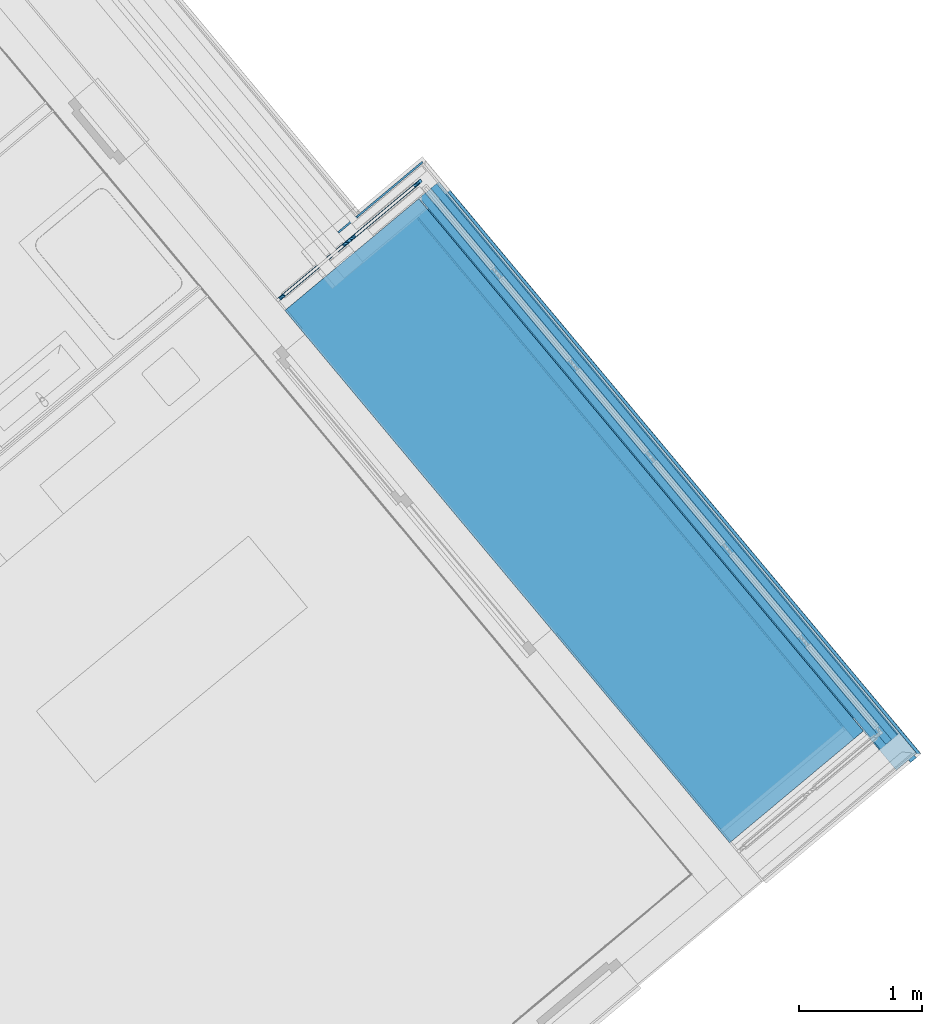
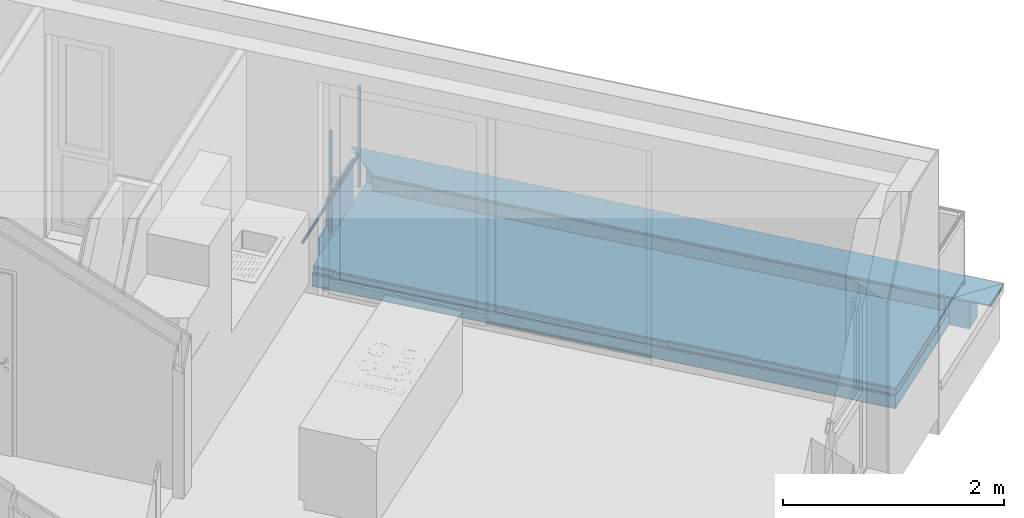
# One storey, part 40 of 61: 15 building element parts, 4 elements without a shape of their own.
"""IFC4 building model written with IfcOpenShell, lengths in metres."""

from ifc_helpers import new_model, entity, si_unit, converted_unit, derived_unit, direction, frame, origin_with_axes, place, context, subcontext, project, spatial, polygons, material, type_object, element, aggregate, save


model = new_model("IFC4")

# Units and contexts
model_context = context("Model", 3, precision=1e-05, world=origin_with_axes(), true_north=direction((0.0, 1.0)))
body_context = subcontext(model_context, "Body", "Model", "MODEL_VIEW")
ifc_project = project(units=[si_unit("LENGTHUNIT", "METRE"), si_unit("AREAUNIT", "SQUARE_METRE"), si_unit("VOLUMEUNIT", "CUBIC_METRE"), converted_unit("PLANEANGLEUNIT", "DEGREE", entity("IfcPlaneAngleMeasure", 0.0174532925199), si_unit("PLANEANGLEUNIT", "RADIAN"), dimensions=[0, 0, 0, 0, 0, 0, 0]), converted_unit("TIMEUNIT", "Year", entity("IfcTimeMeasure", 31556926.0), si_unit("TIMEUNIT", "SECOND"), dimensions=[0, 0, 1, 0, 0, 0, 0]), si_unit("MASSUNIT", "GRAM", prefix="KILO"), si_unit("THERMODYNAMICTEMPERATUREUNIT", "DEGREE_CELSIUS"), si_unit("LUMINOUSINTENSITYUNIT", "LUMEN"), si_unit("ENERGYUNIT", "JOULE", prefix="MEGA"), derived_unit("THERMALCONDUCTANCEUNIT", [(si_unit("POWERUNIT", "WATT"), 1), (si_unit("LENGTHUNIT", "METRE"), -1), (si_unit("THERMODYNAMICTEMPERATUREUNIT", "KELVIN"), -1)]), derived_unit("SPECIFICHEATCAPACITYUNIT", [(si_unit("ENERGYUNIT", "JOULE"), 1), (si_unit("MASSUNIT", "GRAM", prefix="KILO"), -1), (si_unit("THERMODYNAMICTEMPERATUREUNIT", "KELVIN"), -1)]), derived_unit("MASSDENSITYUNIT", [(si_unit("MASSUNIT", "GRAM", prefix="KILO"), 1), (si_unit("VOLUMEUNIT", "CUBIC_METRE"), -1)])], contexts=[model_context])

# Site, building, storey
site_placement = place(None, frame((-0.00153261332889, -0.00661245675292, 0.0), z_axis=(0.0, 0.0, 1.0), x_axis=(1.0, 0.0, 0.0)))
site = spatial("IfcSite", under=ifc_project, at=site_placement, Name="Gelände", CompositionType="ELEMENT")
building_placement = place(site_placement, origin_with_axes())
building = spatial("IfcBuilding", under=site, at=building_placement, Name="Gebäude", CompositionType="ELEMENT")
storey_placement = place(building_placement, frame((0.0, 0.0, 5.7), z_axis=(0.0, 0.0, 1.0), x_axis=(1.0, 0.0, 0.0)))
storey = spatial("IfcBuildingStorey", under=building, at=storey_placement, Name="DG1", CompositionType="ELEMENT", Elevation=5.7)

# Wall, building element part
wall_type = type_object("IfcWallType", Name="Bauteil - Attika Balkon 356 x 610", PredefinedType="NOTDEFINED")
wall_1_placement = place(storey_placement, frame((10.0769189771, 25.3809042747, -0.2), z_axis=(0.0, 0.0, 1.0), x_axis=(0.767365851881, 0.641209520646, 0.0)))
wall_1 = element("IfcWall", 1, at=wall_1_placement, inside=storey, type_object=wall_type, Name="Wand-003", PredefinedType="NOTDEFINED")
ifc_material_1 = material(Name="Zementputz")
building_element_part_1_placement = place(wall_1_placement, origin_with_axes())
building_element_part_1 = element("IfcBuildingElementPart", 2, at=building_element_part_1_placement, material=ifc_material_1, Name="Zementputz", PredefinedType="NOTDEFINED", context=body_context, shape_type="Tessellation", body=[
    polygons([(0.19999996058, 0.214999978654, 0.499999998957), (0.19999996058, 0.199999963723, 0.499999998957), (0.89192992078, 0.199999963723, 0.499999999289), (0.89192998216, 0.214999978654, 0.499999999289), (0.19999996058, 0.199999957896, 0.498915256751), (0.19999996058, 0.214999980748, 0.498915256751), (0.19999996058, 0.199999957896, 0.498822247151), (0.19999996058, 0.199999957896, 0.496604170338), (0.19999996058, 0.199999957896, 0.49100648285), (0.19999996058, 0.199999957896, 0.488695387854), (0.19999996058, 0.199999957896, 0.335), (0.19999996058, 0.199999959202, 0.2), (0.89192992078, 0.199999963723, 0.200000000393), (0.891929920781, 0.199999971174, 0.0), (0.89192998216, 0.214999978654, 0.0), (0.0, 0.214999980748, 0.0), (2.39911202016e-10, 0.214999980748, 0.2), (0.19999996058, 0.214999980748, 0.2), (0.19999996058, 0.214999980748, 0.335), (0.19999996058, 0.214999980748, 0.488695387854), (0.19999996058, 0.214999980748, 0.49100648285), (0.19999996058, 0.214999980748, 0.496604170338), (0.19999996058, 0.214999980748, 0.498822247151), (2.39907649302e-10, 0.199999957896, 0.2), (0.0, 0.199999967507, 0.0)], [[[1, 2, 3, 4]], [[5, 2, 1, 6]], [[2, 5, 7, 8, 9, 10, 11, 12, 13, 3]], [[4, 3, 13, 14, 15]], [[6, 1, 4, 15, 16, 17, 18, 19, 20, 21, 22, 23]], [[5, 6, 23, 7]], [[7, 23, 22, 8]], [[8, 22, 21, 9]], [[9, 21, 20, 10]], [[10, 20, 19, 11]], [[11, 19, 18, 12]], [[12, 24, 25, 14, 13]], [[14, 25, 16, 15]], [[24, 17, 16, 25]], [[24, 12, 18, 17]]], closed=True),
])
aggregate(wall_1, [building_element_part_1])

# Wall, building element parts
wall_2_placement = place(storey_placement, frame((10.5963712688, 25.814957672, -0.2), z_axis=(0.0, 0.0, 1.0), x_axis=(0.641206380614, -0.767368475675, 0.0)))
wall_2 = element("IfcWall", 3, at=wall_2_placement, inside=storey, type_object=wall_type, Name="Wand-004", PredefinedType="NOTDEFINED")
ifc_material_2 = material(Name="Vollholz")
building_element_part_2_placement = place(wall_2_placement, origin_with_axes())
building_element_part_2 = element("IfcBuildingElementPart", 4, at=building_element_part_2_placement, material=ifc_material_2, Name="Vollholz", PredefinedType="NOTDEFINED", context=body_context, shape_type="Tessellation", body=[
    polygons([(6.01965327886, 0.189984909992, 0.586106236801), (6.01966449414, 0.189996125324, 0.584015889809), (6.01967573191, 0.190007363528, 0.581921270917), (6.06981943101, 0.190007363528, 0.581921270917), (6.07116862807, 0.190007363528, 0.581921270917), (6.07116862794, 0.190039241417, 0.575979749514), (6.06981904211, 0.190039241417, 0.575979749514), (6.01970760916, 0.190039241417, 0.575979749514), (6.01970977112, 0.190041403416, 0.575576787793), (6.01971887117, 0.190050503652, 0.573880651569), (6.01975070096, 0.190082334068, 0.567947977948), (6.01979334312, 0.190124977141, 0.560000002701), (-0.130125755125, 0.190124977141, 0.560000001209), (-0.130125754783, 0.190041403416, 0.575576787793), (-0.130125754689, 0.190018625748, 0.57982217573), (-0.130125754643, 0.190007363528, 0.581921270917), (-0.130125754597, 0.189996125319, 0.584015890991), (-0.18998568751, 0.189984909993, 0.586106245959), (6.01966473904, 0.130124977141, 0.584015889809), (6.01967597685, 0.130124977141, 0.581921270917), (6.06981967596, 0.130124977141, 0.581921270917), (6.07116887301, 0.130124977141, 0.581921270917), (6.07116887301, 0.130124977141, 0.575979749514), (6.06981928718, 0.130124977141, 0.575979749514), (6.01970785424, 0.130124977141, 0.575979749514), (6.0197100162, 0.130124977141, 0.575576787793), (6.01971911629, 0.130124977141, 0.573880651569), (6.01975094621, 0.130124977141, 0.567947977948), (6.01979358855, 0.130124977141, 0.560000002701), (-0.130125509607, 0.130124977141, 0.560000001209), (-0.130125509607, 0.130124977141, 0.575576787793), (-0.130125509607, 0.130124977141, 0.57982217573), (-0.130125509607, 0.130124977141, 0.581921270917), (-0.130125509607, 0.130124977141, 0.584015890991)], [[[1, 2, 3, 4, 5, 6, 7, 8, 9, 10, 11, 12, 13, 14, 15, 16, 17, 18]], [[19, 2, 1]], [[2, 19, 20, 3]], [[20, 21, 4, 3]], [[5, 4, 21, 22]], [[23, 6, 5, 22]], [[23, 24, 7, 6]], [[25, 8, 7, 24]], [[26, 9, 8, 25]], [[10, 9, 26, 27]], [[28, 11, 10, 27]], [[11, 28, 29, 12]], [[30, 13, 12, 29]], [[14, 13, 30, 31]], [[14, 31, 32, 15]], [[16, 15, 32, 33]], [[16, 33, 34, 17]], [[17, 34, 18]], [[19, 1, 18, 34]], [[25, 24, 23, 22, 21, 20, 19, 34, 33, 32, 31, 30, 29, 28, 27, 26]]], closed=True),
])
ifc_material_3 = material(Name="Brettschichtholz")
building_element_part_3_placement = place(wall_2_placement, origin_with_axes())
building_element_part_3 = element("IfcBuildingElementPart", 5, at=building_element_part_3_placement, material=ifc_material_3, Name="Brettschichtholz", PredefinedType="NOTDEFINED", context=body_context, shape_type="Tessellation", body=[
    polygons([(6.04466834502, 0.190124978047, 0.560000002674), (6.04466824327, 0.214999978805, 0.560000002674), (-8.79832345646e-07, 0.214999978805, 0.560000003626), (-7.78044960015e-07, 0.190124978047, 0.560000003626), (6.04466824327, 0.214999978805, 0.519273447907), (6.04466859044, 0.130124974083, 0.560000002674), (6.0446688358, 0.0701429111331, 0.560000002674), (6.04466908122, 0.010142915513, 0.560000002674), (6.04466912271, 0.0, 0.560000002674), (6.04466912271, 0.0, 0.519273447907), (6.04466824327, 0.214999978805, 0.519224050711), (6.04466824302, 0.214999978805, 0.511410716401), (6.04466824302, 0.214999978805, 0.51136132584), (6.04466824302, 0.214999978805, 0.509099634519), (6.04466824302, 0.214999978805, 0.509050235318), (6.04466824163, 0.214999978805, 0.50000001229), (-8.79832347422e-07, 0.214999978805, 0.499999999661), (-8.79832347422e-07, 0.214999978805, 0.506731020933), (-8.79832347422e-07, 0.214999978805, 0.509099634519), (-8.79832347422e-07, 0.214999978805, 0.511410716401), (-8.79832347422e-07, 0.214999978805, 0.519273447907), (0.0, 0.0, 0.519273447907), (0.0, 0.0, 0.560000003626), (-4.15664587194e-08, 0.010142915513, 0.560000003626), (-2.87083741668e-07, 0.0701429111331, 0.560000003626), (-5.32527650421e-07, 0.130124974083, 0.560000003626), (0.0, 0.0, 0.511410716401), (0.0, 0.0, 0.509099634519), (0.0, 0.0, 0.506731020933), (0.0, 0.0, 0.499999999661), (6.04466912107, 0.0, 0.50000001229), (6.04466912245, 0.0, 0.509050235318), (6.04466912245, 0.0, 0.509099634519), (6.04466912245, 0.0, 0.51136132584), (6.04466912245, 0.0, 0.511410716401), (6.04466912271, 0.0, 0.519224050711)], [[[1, 2, 3, 4]], [[5, 2, 1, 6, 7, 8, 9, 10]], [[2, 5, 11, 12, 13, 14, 15, 16, 17, 18, 19, 20, 21, 3]], [[4, 3, 21, 22, 23, 24, 25, 26]], [[6, 1, 4, 26]], [[7, 6, 26, 25]], [[8, 7, 25, 24]], [[9, 8, 24, 23]], [[10, 9, 23, 22, 27, 28, 29, 30, 31, 32, 33, 34, 35, 36]], [[5, 10, 36, 11]], [[11, 36, 35, 12]], [[12, 35, 34, 13]], [[13, 34, 33, 14]], [[14, 33, 32, 15]], [[15, 32, 31, 16]], [[30, 17, 16, 31]], [[29, 18, 17, 30]], [[28, 19, 18, 29]], [[27, 20, 19, 28]], [[22, 21, 20, 27]]], closed=True),
])
ifc_material_4 = material(Name="Stahlbeton")
building_element_part_4_placement = place(wall_2_placement, origin_with_axes())
building_element_part_4 = element("IfcBuildingElementPart", 6, at=building_element_part_4_placement, material=ifc_material_4, Name="Stahlbeton", PredefinedType="NOTDEFINED", context=body_context, shape_type="Tessellation", body=[
    polygons([(5.82966915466, 1.0529745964e-09, 0.500000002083), (5.82966833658, 0.19999996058, 0.500000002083), (-8.19443810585e-07, 0.19999996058, 0.500000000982), (-1.0529745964e-09, 1.0529745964e-09, 0.500000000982), (5.82966833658, 0.19999996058, 0.498915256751), (5.82966915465, 1.0529745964e-09, 0.498915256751), (5.82966833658, 0.19999996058, 0.498822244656), (5.82966833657, 0.19999996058, 0.496604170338), (5.82966833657, 0.19999996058, 0.491006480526), (5.82966833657, 0.19999996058, 0.488695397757), (5.82966833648, 0.19999996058, 0.335), (5.82966833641, 0.19999996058, 0.200000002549), (-8.19443808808e-07, 0.19999996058, 0.2), (-8.19443812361e-07, 0.19999996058, 0.334999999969), (-8.19443812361e-07, 0.19999996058, 0.496604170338), (-8.19443812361e-07, 0.19999996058, 0.498915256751), (-1.0529745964e-09, 1.0529745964e-09, 0.498915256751), (-1.0529745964e-09, 1.0529745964e-09, 0.496604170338), (-1.0529745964e-09, 1.0529745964e-09, 0.334999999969), (5.82966915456, 1.0529745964e-09, 0.335), (5.82966915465, 1.0529745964e-09, 0.488695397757), (5.82966915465, 1.0529745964e-09, 0.491006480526), (5.82966915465, 1.0529745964e-09, 0.496604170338), (5.82966915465, 1.0529745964e-09, 0.498822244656), (5.82966915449, 1.0529745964e-09, 0.200000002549), (-1.0529745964e-09, 1.0529745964e-09, 0.2)], [[[1, 2, 3, 4]], [[5, 2, 1, 6]], [[2, 5, 7, 8, 9, 10, 11, 12, 13, 14, 15, 16, 3]], [[4, 3, 16, 17]], [[6, 1, 4, 17, 18, 19, 20, 21, 22, 23, 24]], [[5, 6, 24, 7]], [[7, 24, 23, 8]], [[8, 23, 22, 9]], [[9, 22, 21, 10]], [[10, 21, 20, 11]], [[11, 20, 25, 12]], [[12, 25, 26, 13]], [[19, 14, 13, 26]], [[18, 15, 14, 19]], [[17, 16, 15, 18]], [[25, 20, 19, 26]]], closed=True),
])
building_element_part_5_placement = place(wall_2_placement, origin_with_axes())
building_element_part_5 = element("IfcBuildingElementPart", 7, at=building_element_part_5_placement, material=ifc_material_2, Name="Vollholz", PredefinedType="NOTDEFINED", context=body_context, shape_type="Tessellation", body=[
    polygons([(6.01968773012, 0.0100326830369, 0.57982217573), (6.0196762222, 0.0701429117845, 0.581921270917), (-0.0701431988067, 0.0701429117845, 0.581921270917), (-0.0100327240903, 0.010032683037, 0.579822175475), (6.01968748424, 0.0701429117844, 0.57982217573), (6.01970809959, 0.0701429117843, 0.575979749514), (5.95979383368, 0.0701429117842, 0.575979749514), (5.72966885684, 0.0701429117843, 0.575979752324), (5.72966885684, 0.0701429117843, 0.575576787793), (5.72966885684, 0.0701429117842, 0.573880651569), (5.72966885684, 0.0701429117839, 0.567947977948), (5.72966885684, 0.0701429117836, 0.560000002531), (-0.0101431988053, 0.0701429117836, 0.560000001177), (-0.0100565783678, 0.0701429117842, 0.575576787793), (-0.0100329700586, 0.0701429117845, 0.579822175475), (6.01970834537, 0.0100540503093, 0.575979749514), (-0.0100563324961, 0.0100562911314, 0.575576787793), (-0.010142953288, 0.0101429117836, 0.560000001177), (5.72966910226, 0.0101429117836, 0.560000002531), (5.72966910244, 0.0100987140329, 0.567947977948), (5.72966910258, 0.0100657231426, 0.573880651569), (5.72966910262, 0.0100562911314, 0.575576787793), (5.72966910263, 0.0100540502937, 0.575979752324), (5.95979407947, 0.0100540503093, 0.575979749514)], [[[1, 2, 3, 4]], [[5, 2, 1]], [[2, 5, 6, 7, 8, 9, 10, 11, 12, 13, 14, 15, 3]], [[3, 15, 4]], [[16, 1, 4, 17, 18, 19, 20, 21, 22, 23, 24]], [[5, 1, 16, 6]], [[6, 16, 24, 7]], [[8, 7, 24, 23]], [[9, 8, 23, 22]], [[9, 22, 21, 10]], [[10, 21, 20, 11]], [[11, 20, 19, 12]], [[12, 19, 18, 13]], [[17, 14, 13, 18]], [[4, 15, 14, 17]]], closed=True),
])
ifc_material_5 = material(Name="EPS 1")
building_element_part_6_placement = place(wall_2_placement, origin_with_axes())
building_element_part_6 = element("IfcBuildingElementPart", 8, at=building_element_part_6_placement, material=ifc_material_5, Name="EPS 1", PredefinedType="NOTDEFINED", context=body_context, shape_type="Tessellation", body=[
    polygons([(5.62966955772, -0.0999999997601, 0.560000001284), (5.62966914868, 2.39911202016e-10, 0.560000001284), (0.0999999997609, 2.39907649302e-10, 0.560000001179), (0.100000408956, -0.0999999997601, 0.560000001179), (5.62966915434, 2.39914754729e-10, 0.519273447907), (5.62966956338, -0.0999999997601, 0.519273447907), (5.62966915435, 2.39914754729e-10, 0.519224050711), (5.62966915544, 2.39911202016e-10, 0.511410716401), (5.62966915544, 2.39914754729e-10, 0.51136132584), (5.62966915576, 2.39907649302e-10, 0.509099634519), (5.62966915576, 2.39911202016e-10, 0.509050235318), (5.62966915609, 2.39907649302e-10, 0.506731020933), (5.62966915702, 2.39928965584e-10, 0.500000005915), (5.62966915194, 2.39911202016e-10, 0.498915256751), (5.62966915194, 2.39911202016e-10, 0.498822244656), (5.62966915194, 2.39911202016e-10, 0.496604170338), (5.62966915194, 2.39911202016e-10, 0.491006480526), (5.62966915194, 2.39911202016e-10, 0.488695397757), (5.62966915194, 2.39911202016e-10, 0.334999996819), (0.0999999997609, 2.39911202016e-10, 0.334999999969), (0.0999999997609, 2.39911202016e-10, 0.496604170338), (0.0999999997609, 2.39911202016e-10, 0.498915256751), (0.0999999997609, 2.39911202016e-10, 0.499999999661), (0.0999999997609, 2.39911202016e-10, 0.506731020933), (0.0999999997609, 2.39911202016e-10, 0.509099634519), (0.0999999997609, 2.39911202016e-10, 0.511410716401), (0.0999999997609, 2.39911202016e-10, 0.519273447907), (0.100000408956, -0.0999999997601, 0.519273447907), (0.100000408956, -0.0999999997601, 0.511410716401), (0.100000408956, -0.0999999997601, 0.509099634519), (0.100000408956, -0.0999999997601, 0.506731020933), (0.100000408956, -0.0999999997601, 0.499999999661), (0.100000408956, -0.0999999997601, 0.498915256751), (0.100000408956, -0.0999999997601, 0.496604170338), (0.100000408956, -0.0999999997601, 0.334999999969), (5.62966956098, -0.0999999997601, 0.334999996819), (5.62966956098, -0.0999999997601, 0.488695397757), (5.62966956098, -0.0999999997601, 0.491006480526), (5.62966956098, -0.0999999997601, 0.496604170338), (5.62966956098, -0.0999999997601, 0.498822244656), (5.62966956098, -0.0999999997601, 0.498915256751), (5.62966956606, -0.0999999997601, 0.500000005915), (5.62966956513, -0.0999999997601, 0.506731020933), (5.6296695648, -0.0999999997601, 0.509050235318), (5.6296695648, -0.0999999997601, 0.509099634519), (5.62966956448, -0.0999999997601, 0.51136132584), (5.62966956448, -0.0999999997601, 0.511410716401), (5.62966956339, -0.0999999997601, 0.519224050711)], [[[1, 2, 3, 4]], [[5, 2, 1, 6]], [[2, 5, 7, 8, 9, 10, 11, 12, 13, 14, 15, 16, 17, 18, 19, 20, 21, 22, 23, 24, 25, 26, 27, 3]], [[4, 3, 27, 28]], [[6, 1, 4, 28, 29, 30, 31, 32, 33, 34, 35, 36, 37, 38, 39, 40, 41, 42, 43, 44, 45, 46, 47, 48]], [[5, 6, 48, 7]], [[7, 48, 47, 8]], [[8, 47, 46, 9]], [[9, 46, 45, 10]], [[10, 45, 44, 11]], [[11, 44, 43, 12]], [[12, 43, 42, 13]], [[13, 42, 41, 14]], [[14, 41, 40, 15]], [[15, 40, 39, 16]], [[16, 39, 38, 17]], [[17, 38, 37, 18]], [[18, 37, 36, 19]], [[19, 36, 35, 20]], [[34, 21, 20, 35]], [[33, 22, 21, 34]], [[32, 23, 22, 33]], [[31, 24, 23, 32]], [[30, 25, 24, 31]], [[29, 26, 25, 30]], [[28, 27, 26, 29]]], closed=True),
])
ifc_material_6 = material(Name="Holzwerkstoff")
building_element_part_7_placement = place(wall_2_placement, origin_with_axes())
building_element_part_7 = element("IfcBuildingElementPart", 9, at=building_element_part_7_placement, material=ifc_material_6, Name="Holzwerkstoff", PredefinedType="NOTDEFINED", context=body_context, shape_type="Tessellation", body=[
    polygons([(0.111834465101, -0.11183400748, 0.584015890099), (0.111907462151, -0.111907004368, 0.586106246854), (0.111906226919, 0.189984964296, 0.586106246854), (0.111833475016, 0.130124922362, 0.584015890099), (0.111761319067, -0.111760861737, 0.581921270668), (0.111688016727, -0.111687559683, 0.579822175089), (0.111539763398, -0.111539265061, 0.575576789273), (5.71813030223, -0.111539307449, 0.575576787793), (5.72966960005, -0.111553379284, 0.575979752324), (5.83970228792, -0.111687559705, 0.57982217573), (5.89981250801, -0.111760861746, 0.581921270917), (5.95979458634, -0.111834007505, 0.584015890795), (6.0196545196, -0.111907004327, 0.586106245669), (6.06966959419, -0.111967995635, 0.587852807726), (6.06966663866, -0.111970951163, 0.587937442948), (6.06939045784, -0.112247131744, 0.595846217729), (0.112247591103, -0.112247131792, 0.5958462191), (0.112246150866, 0.239720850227, 0.5958462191), (0.111967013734, 0.23999998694, 0.587852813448), (6.0196532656, 0.189984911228, 0.586106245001), (5.95979359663, 0.130124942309, 0.584015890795), (0.111760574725, 0.0701429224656, 0.581921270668), (0.111687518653, 0.01003274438, 0.579822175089), (5.83970179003, 0.010032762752, 0.57982217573), (5.72966955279, -0.0999999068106, 0.575979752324), (5.89981174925, 0.0701429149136, 0.581921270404), (6.0696681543, 0.23999998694, 0.587852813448), (6.06966519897, 0.239997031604, 0.587937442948), (6.06938901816, 0.239720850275, 0.595846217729), (-0.239277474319, 0.239276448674, 0.608570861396), (6.06894466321, 0.23927649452, 0.608570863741)], [[[1, 2, 3, 4]], [[5, 6, 7, 8, 9, 10, 11, 12, 13, 14, 15, 16, 17, 2, 1]], [[2, 17, 18, 19, 3]], [[4, 3, 20, 21]], [[5, 1, 4, 22]], [[6, 5, 22, 23]], [[7, 6, 23]], [[7, 23, 24, 25, 8]], [[9, 8, 25]], [[10, 9, 25, 24]], [[11, 10, 24, 26]], [[12, 11, 26, 21]], [[13, 12, 21, 20]], [[14, 13, 20, 27]], [[14, 27, 28, 15]], [[16, 15, 28, 29]], [[30, 17, 16, 31]], [[18, 17, 30]], [[19, 18, 30, 31, 29, 28, 27]], [[3, 19, 27, 20]], [[22, 4, 21, 26]], [[23, 22, 26, 24]], [[16, 29, 31]]], closed=True),
])
aggregate(wall_2, [building_element_part_2, building_element_part_3, building_element_part_4, building_element_part_5, building_element_part_6, building_element_part_7])

# Covering, building element parts
covering_type = type_object("IfcCoveringType", Name="Balkon vor Terrasse 220", PredefinedType="NOTDEFINED")
covering_placement = place(storey_placement, frame((13.1202359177, 20.5875383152, 0.0), z_axis=(0.0, 0.0, 1.0), x_axis=(1.0, 0.0, 0.0)))
covering = element("IfcCovering", 10, at=covering_placement, inside=storey, type_object=covering_type, Name="Decke-005", PredefinedType="NOTDEFINED")
ifc_material_7 = material(Name="Platten")
building_element_part_8_placement = place(covering_placement, origin_with_axes())
building_element_part_8 = element("IfcBuildingElementPart", 11, at=building_element_part_8_placement, material=ifc_material_7, Name="Platten", PredefinedType="NOTDEFINED", context=body_context, shape_type="Tessellation", body=[
    polygons([(-1.41438565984, 1.69266242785, 0.22), (-1.40287517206, 1.70228057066, 0.22), (0.0115104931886, 0.00961814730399, 0.22), (1.08591513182, 0.907388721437, 0.22), (-2.52386452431, 5.22741920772, 0.22), (-3.59828683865, 4.32963386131, 0.22), (-3.46756982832, 4.1731986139, 0.22), (-3.4790803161, 4.16358047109, 0.22), (-1.41438565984, 1.69266242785, 0.2), (-1.40287517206, 1.70228057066, 0.2), (0.0115104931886, 0.00961814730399, 0.2), (1.08591513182, 0.907388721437, 0.2), (-2.52386452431, 5.22741920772, 0.2), (-3.59828683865, 4.32963386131, 0.2), (-3.46756982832, 4.1731986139, 0.2), (-3.4790803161, 4.16358047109, 0.2)], [[[1, 2, 3, 4, 5, 6, 7, 8]], [[2, 1, 9, 10]], [[11, 3, 2, 10]], [[3, 11, 12, 4]], [[12, 13, 5, 4]], [[14, 6, 5, 13]], [[7, 6, 14, 15]], [[8, 7, 15, 16]], [[9, 1, 8, 16]], [[10, 9, 16, 15, 14, 13, 12, 11]]], closed=True),
])
ifc_material_8 = material(Name="Luftschicht horizontal")
building_element_part_9_placement = place(covering_placement, origin_with_axes())
building_element_part_9 = element("IfcBuildingElementPart", 12, at=building_element_part_9_placement, material=ifc_material_8, Name="Luftschicht horizontal", PredefinedType="NOTDEFINED", context=body_context, shape_type="Tessellation", body=[
    polygons([(-1.41438565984, 1.69266242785, 0.2), (-1.40287517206, 1.70228057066, 0.2), (0.0115104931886, 0.00961814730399, 0.2), (1.08591513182, 0.907388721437, 0.2), (-2.52386452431, 5.22741920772, 0.2), (-3.59828683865, 4.32963386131, 0.2), (-3.46756982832, 4.1731986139, 0.2), (-3.4790803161, 4.16358047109, 0.2), (-1.41438565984, 1.69266242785, 0.15), (-1.40287517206, 1.70228057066, 0.15), (0.0115104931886, 0.00961814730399, 0.15), (1.08591513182, 0.907388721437, 0.15), (-2.52386452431, 5.22741920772, 0.15), (-3.59828683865, 4.32963386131, 0.15), (-3.46756982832, 4.1731986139, 0.15), (-3.4790803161, 4.16358047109, 0.15)], [[[1, 2, 3, 4, 5, 6, 7, 8]], [[2, 1, 9, 10]], [[11, 3, 2, 10]], [[3, 11, 12, 4]], [[12, 13, 5, 4]], [[14, 6, 5, 13]], [[7, 6, 14, 15]], [[8, 7, 15, 16]], [[9, 1, 8, 16]], [[10, 9, 16, 15, 14, 13, 12, 11]]], closed=True),
])
ifc_material_9 = material(Name="Sperrschicht")
building_element_part_10_placement = place(covering_placement, origin_with_axes())
building_element_part_10 = element("IfcBuildingElementPart", 13, at=building_element_part_10_placement, material=ifc_material_9, Name="Sperrschicht", PredefinedType="NOTDEFINED", context=body_context, shape_type="Tessellation", body=[
    polygons([(1.08591513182, 0.907388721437, 0.135), (1.08591513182, 0.907388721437, 0.15), (0.0, 0.0, 0.15), (0.0, 0.0, 0.135), (-2.52386452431, 5.22741920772, 0.135), (-2.52386452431, 5.22741920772, 0.15), (-3.60979731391, 4.32001572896, 0.15), (-3.60979731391, 4.32001572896, 0.135)], [[[1, 2, 3, 4]], [[5, 6, 2, 1]], [[3, 2, 6, 7]], [[4, 3, 7, 8]], [[4, 8, 5, 1]], [[8, 7, 6, 5]]], closed=True),
])
ifc_material_10 = material(Name="XPS")
building_element_part_11_placement = place(covering_placement, origin_with_axes())
building_element_part_11 = element("IfcBuildingElementPart", 14, at=building_element_part_11_placement, material=ifc_material_10, Name="XPS", PredefinedType="NOTDEFINED", context=body_context, shape_type="Tessellation", body=[
    polygons([(1.08591513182, 0.907388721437, 0.005), (1.08591513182, 0.907388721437, 0.135), (0.0, 0.0, 0.135), (0.0, 0.0, 0.005), (-2.52386452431, 5.22741920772, 0.005), (-2.52386452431, 5.22741920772, 0.135), (-3.60979731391, 4.32001572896, 0.135), (-3.60979731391, 4.32001572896, 0.005)], [[[1, 2, 3, 4]], [[5, 6, 2, 1]], [[3, 2, 6, 7]], [[4, 3, 7, 8]], [[4, 8, 5, 1]], [[8, 7, 6, 5]]], closed=True),
])
building_element_part_12_placement = place(covering_placement, origin_with_axes())
building_element_part_12 = element("IfcBuildingElementPart", 15, at=building_element_part_12_placement, material=ifc_material_9, Name="Sperrschicht", PredefinedType="NOTDEFINED", context=body_context, shape_type="Tessellation", body=[
    polygons([(0.0, 0.0, 0.0), (1.08591513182, 0.907388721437, 0.0), (1.08591513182, 0.907388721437, 0.005), (0.0, 0.0, 0.005), (-3.60979731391, 4.32001572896, 0.0), (-2.52386452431, 5.22741920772, 0.0), (-2.52386452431, 5.22741920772, 0.005), (-3.60979731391, 4.32001572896, 0.005)], [[[1, 2, 3, 4]], [[1, 5, 6, 2]], [[2, 6, 7, 3]], [[4, 3, 7, 8]], [[5, 1, 4, 8]], [[6, 5, 8, 7]]], closed=True),
])
aggregate(covering, [building_element_part_8, building_element_part_9, building_element_part_10, building_element_part_11, building_element_part_12])

# Space
space_placement = place(storey_placement, frame((9.89495575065, 25.0808160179, 0.22), z_axis=(0.0, 0.0, 1.0), x_axis=(-0.767365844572, -0.641209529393, 0.0)))
space = spatial("IfcSpace", under=storey, at=space_placement, CompositionType="ELEMENT", PredefinedType="NOTDEFINED")

# Railing, building element parts
railing_type = type_object("IfcRailingType", Name="Geländerart", PredefinedType="NOTDEFINED")
railing_placement = place(space_placement, frame((0.391162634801, 5.51606821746, 0.16), z_axis=(0.0, 0.0, 1.0), x_axis=(-0.767365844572, 0.641209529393, 0.0)))
railing = element("IfcRailing", 16, at=railing_placement, inside=space, type_object=railing_type, Name="Geländer - 001", PredefinedType="NOTDEFINED")
ifc_material_11 = material(Name="Aluminium")
building_element_part_13_placement = place(railing_placement, origin_with_axes())
building_element_part_13 = element("IfcBuildingElementPart", 17, at=building_element_part_13_placement, material=ifc_material_11, Name="Aluminium", PredefinedType="NOTDEFINED", context=body_context, shape_type="Tessellation", body=[
    polygons([(-2.52117486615, 5.37627017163, -0.3), (-2.54036116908, 5.36024251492, -0.3), (-2.54036116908, 5.36024251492, 0.82), (-2.52117486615, 5.37627017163, 0.82), (-2.50514720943, 5.3570838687, -0.3), (-2.52433351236, 5.34105621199, -0.3), (-2.52433351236, 5.34105621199, 0.82), (-2.50514720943, 5.3570838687, 0.82)], [[[1, 2, 3, 4]], [[1, 5, 6, 2]], [[2, 6, 7, 3]], [[4, 3, 7, 8]], [[5, 1, 4, 8]], [[6, 5, 8, 7]]], closed=True),
])
building_element_part_14_placement = place(railing_placement, origin_with_axes())
building_element_part_14 = element("IfcBuildingElementPart", 18, at=building_element_part_14_placement, material=ifc_material_11, Name="Aluminium", PredefinedType="NOTDEFINED", context=body_context, shape_type="Tessellation", body=[
    polygons([(-2.52464808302, 5.33753326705, 0.07), (-2.52461931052, 5.33785427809, 0.072604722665), (-3.66444639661, 4.38541682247, 0.072604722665), (-3.66430027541, 4.38524195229, 0.07), (-2.52461931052, 5.33785427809, 0.067395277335), (-2.52453386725, 5.33880755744, 0.0648696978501), (-2.52439434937, 5.34036414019, 0.0625), (-2.52420499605, 5.34247673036, 0.0603581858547), (-2.5239715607, 5.34508113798, 0.0585093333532), (-2.52370113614, 5.34809822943, 0.0570096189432), (-2.52340193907, 5.35143633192, 0.0559046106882), (-2.52308306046, 5.35499401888, 0.0552278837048), (-2.52275418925, 5.35866319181, 0.055), (-2.52242531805, 5.36233236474, 0.0552278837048), (-2.52210643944, 5.36589005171, 0.0559046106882), (-2.52180724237, 5.36922815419, 0.0570096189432), (-2.52153681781, 5.37224524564, 0.0585093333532), (-2.52130338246, 5.37484965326, 0.0603581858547), (-2.52111402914, 5.37696224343, 0.0625), (-2.52097451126, 5.37851882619, 0.0648696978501), (-2.52088906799, 5.37947210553, 0.067395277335), (-2.52086029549, 5.37979311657, 0.07), (-2.52088906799, 5.37947210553, 0.072604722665), (-2.52097451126, 5.37851882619, 0.0751303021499), (-2.52111402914, 5.37696224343, 0.0775), (-2.52130338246, 5.37484965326, 0.0796418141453), (-2.52153681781, 5.37224524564, 0.0814906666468), (-2.52180724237, 5.36922815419, 0.0829903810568), (-2.52210643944, 5.36589005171, 0.0840953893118), (-2.52242531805, 5.36233236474, 0.0847721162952), (-2.52275418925, 5.35866319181, 0.085), (-2.52308306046, 5.35499401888, 0.0847721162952), (-2.52340193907, 5.35143633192, 0.0840953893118), (-2.52370113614, 5.34809822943, 0.0829903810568), (-2.5239715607, 5.34508113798, 0.0814906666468), (-2.52420499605, 5.34247673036, 0.0796418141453), (-2.52439434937, 5.34036414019, 0.0775), (-2.52453386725, 5.33880755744, 0.0751303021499), (-3.6648803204, 4.38593611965, 0.0751303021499), (-3.66558886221, 4.38678406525, 0.0775), (-3.66655049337, 4.38793489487, 0.0796418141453), (-3.6677359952, 4.38935364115, 0.0814906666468), (-3.66910934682, 4.39099719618, 0.0829903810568), (-3.67062881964, 4.39281562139, 0.0840953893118), (-3.67224824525, 4.39475366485, 0.0847721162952), (-3.67391841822, 4.39675244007, 0.085), (-3.67558859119, 4.3987512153, 0.0847721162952), (-3.6772080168, 4.40068925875, 0.0840953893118), (-3.67872748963, 4.40250768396, 0.0829903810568), (-3.68010084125, 4.404151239, 0.0814906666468), (-3.68128634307, 4.40556998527, 0.0796418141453), (-3.68224797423, 4.4067208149, 0.0775), (-3.68295651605, 4.4075687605, 0.0751303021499), (-3.68339043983, 4.40808805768, 0.072604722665), (-3.68353656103, 4.40826292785, 0.07), (-3.68339043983, 4.40808805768, 0.067395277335), (-3.68295651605, 4.4075687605, 0.0648696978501), (-3.68224797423, 4.4067208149, 0.0625), (-3.68128634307, 4.40556998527, 0.0603581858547), (-3.68010084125, 4.404151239, 0.0585093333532), (-3.67872748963, 4.40250768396, 0.0570096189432), (-3.6772080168, 4.40068925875, 0.0559046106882), (-3.67558859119, 4.3987512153, 0.0552278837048), (-3.67391841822, 4.39675244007, 0.055), (-3.67224824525, 4.39475366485, 0.0552278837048), (-3.67062881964, 4.39281562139, 0.0559046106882), (-3.66910934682, 4.39099719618, 0.0570096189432), (-3.6677359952, 4.38935364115, 0.0585093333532), (-3.66655049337, 4.38793489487, 0.0603581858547), (-3.66558886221, 4.38678406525, 0.0625), (-3.6648803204, 4.38593611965, 0.0648696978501), (-3.66444639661, 4.38541682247, 0.067395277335)], [[[1, 2, 3, 4]], [[1, 5, 6, 7, 8, 9, 10, 11, 12, 13, 14, 15, 16, 17, 18, 19, 20, 21, 22, 23, 24, 25, 26, 27, 28, 29, 30, 31, 32, 33, 34, 35, 36, 37, 38, 2]], [[2, 38, 39, 3]], [[4, 3, 39, 40, 41, 42, 43, 44, 45, 46, 47, 48, 49, 50, 51, 52, 53, 54, 55, 56, 57, 58, 59, 60, 61, 62, 63, 64, 65, 66, 67, 68, 69, 70, 71, 72]], [[5, 1, 4, 72]], [[6, 5, 72, 71]], [[7, 6, 71, 70]], [[8, 7, 70, 69]], [[9, 8, 69, 68]], [[10, 9, 68, 67]], [[11, 10, 67, 66]], [[12, 11, 66, 65]], [[13, 12, 65, 64]], [[14, 13, 64, 63]], [[15, 14, 63, 62]], [[16, 15, 62, 61]], [[17, 16, 61, 60]], [[18, 17, 60, 59]], [[19, 18, 59, 58]], [[20, 19, 58, 57]], [[21, 20, 57, 56]], [[22, 21, 56, 55]], [[23, 22, 55, 54]], [[24, 23, 54, 53]], [[25, 24, 53, 52]], [[26, 25, 52, 51]], [[27, 26, 51, 50]], [[28, 27, 50, 49]], [[29, 28, 49, 48]], [[30, 29, 48, 47]], [[31, 30, 47, 46]], [[32, 31, 46, 45]], [[33, 32, 45, 44]], [[34, 33, 44, 43]], [[35, 34, 43, 42]], [[36, 35, 42, 41]], [[37, 36, 41, 40]], [[38, 37, 40, 39]]], closed=True),
])
building_element_part_15_placement = place(railing_placement, origin_with_axes())
building_element_part_15 = element("IfcBuildingElementPart", 19, at=building_element_part_15_placement, material=ifc_material_11, Name="Aluminium", PredefinedType="NOTDEFINED", context=body_context, shape_type="Tessellation", body=[
    polygons([(-3.11594349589, 4.87928477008, -0.3), (-3.09991325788, 4.86010062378, -0.3), (-3.09991325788, 4.86010062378, 0.82), (-3.11594349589, 4.87928477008, 0.82), (-3.0967593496, 4.8953150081, -0.3), (-3.08072911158, 4.8761308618, -0.3), (-3.08072911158, 4.8761308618, 0.82), (-3.0967593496, 4.8953150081, 0.82)], [[[1, 2, 3, 4]], [[1, 5, 6, 2]], [[2, 6, 7, 3]], [[4, 3, 7, 8]], [[5, 1, 4, 8]], [[6, 5, 8, 7]]], closed=True),
])
aggregate(railing, [building_element_part_13, building_element_part_14, building_element_part_15])

save(model, "model.ifc")
